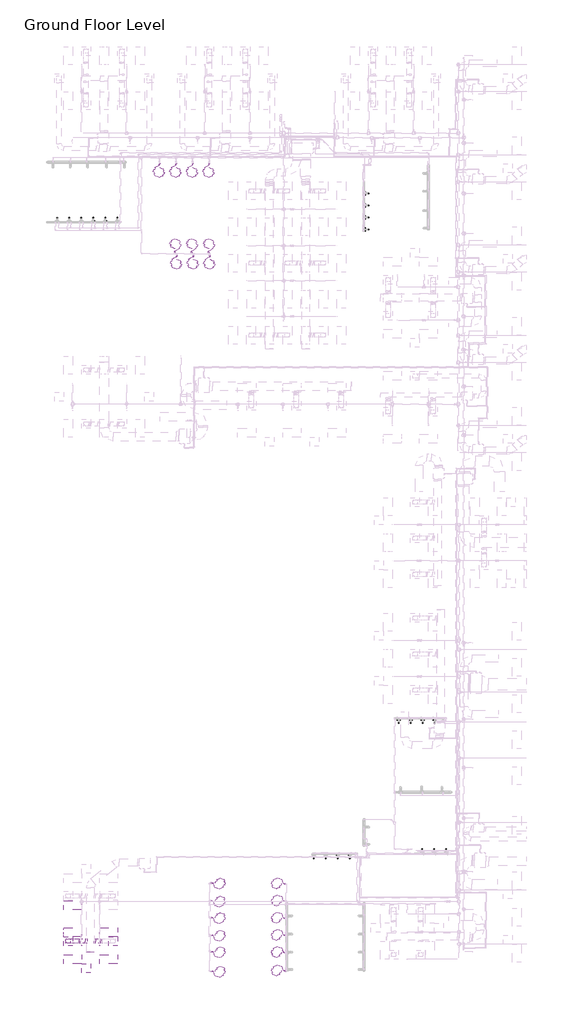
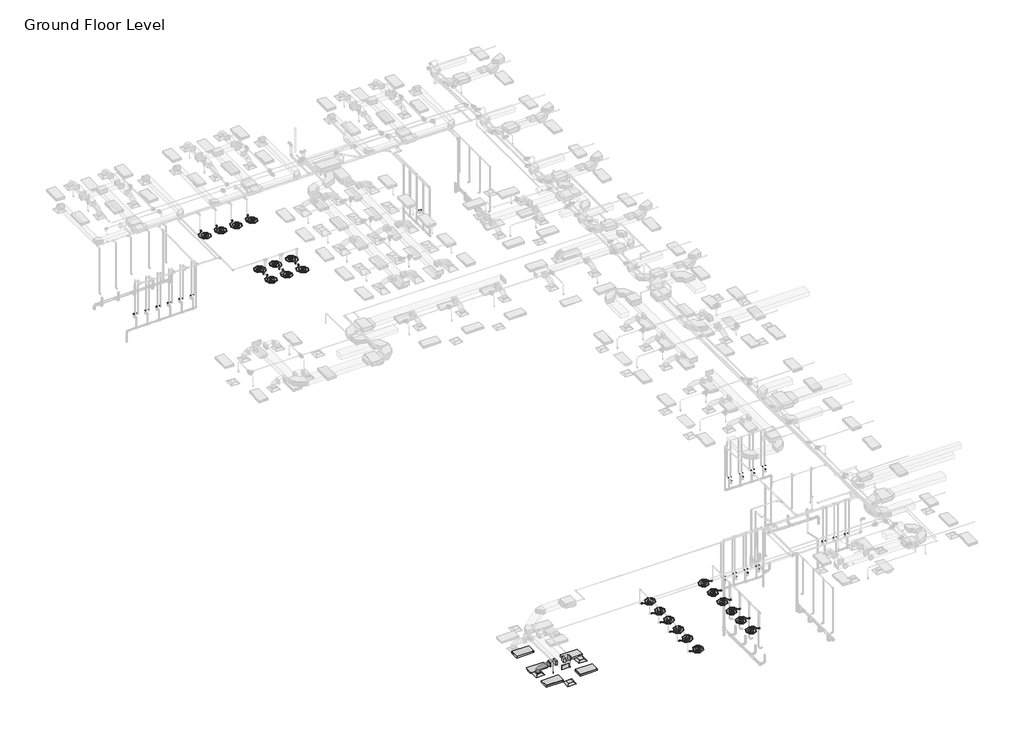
# One storey, part 1 of 74: 43 flow terminals, 6 duct fittings, 5 light fixtures, 3 air terminals, 3 duct segments, 2 fire suppression terminals, 2 pipe segments.
"""IFC4 building model written with IfcOpenShell, lengths in millimetres."""

from ifc_helpers import new_model, si_unit, point, frame, frame_2d, origin, place, context, project, spatial, polyline, circle_curve, ellipse_curve, trimmed, segment, composite_curve, outline, extrude, transform, mapped, element, save
from ifc_brep_helpers import plane_surface, cylinder_surface, advanced_brep
from components import m_return_diffuser_600_x_600_face_300_x_300_connection_ff221211, m_rectangular_endcap_standard_72d4d00d, m_rectangular_takeoff_standard_cb0ccb98, m_rectangular_takeoff_standard_2be5eba1, m_rectangular_to_round_transition_angle_45_degree_641efff0, m_sprinkler_dry_pendent_hosted_15_mm_dry_pendent_9bda8e11, lavatory_unit_m_type_1_c53317d3, shower_m_shower_m_c8aa42c7, m_emergency_recessed_lighting_fixture_600x1200_277_5b10b25d, m_troffer_light_parabolic_rectangular1_0600x1200mm_4_lamp_86473d4a

model = new_model("IFC4")

# Units and contexts
model_context = context("Model", 3, world=origin())
ifc_project = project(units=[si_unit("LENGTHUNIT", "METRE", prefix="MILLI")], contexts=[model_context])

# Site, building, storey
site = spatial("IfcSite", under=ifc_project)
building = spatial("IfcBuilding", under=site)
storey = spatial("IfcBuildingStorey", under=building, Name="Ground Floor Level", Elevation=900.0)

# Air terminals
placement = place(None, origin())
m_return_diffuser_600_x_600_face_300_x_300_connection_shape = m_return_diffuser_600_x_600_face_300_x_300_connection_ff221211(model_context)
element("IfcAirTerminal", 1, ObjectType="M_Return Diffuser : 600 x 600 Face 300 x 300 Connection", at=placement, inside=storey, context=model_context, shape_type="MappedRepresentation", body=[
    mapped(m_return_diffuser_600_x_600_face_300_x_300_connection_shape, transform((-19137.2327605, -40464.7846466, 3650.0), x_axis=(1.0, 0.0, 0.0), y_axis=(0.0, 1.0, 0.0), z_axis=(0.0, 0.0, 1.0))),
])
element("IfcAirTerminal", 2, ObjectType="M_Supply Diffuser : 600 x 600 Face 300 x 300 Connection", at=placement, inside=storey, context=model_context, shape_type="MappedRepresentation", body=[
    mapped(m_return_diffuser_600_x_600_face_300_x_300_connection_shape, transform((-20337.2327605, -38664.7846466, 3650.0), x_axis=(1.0, 0.0, 0.0), y_axis=(0.0, 1.0, 0.0), z_axis=(0.0, 0.0, 1.0))),
])
element("IfcAirTerminal", 3, ObjectType="M_Supply Diffuser : 600 x 600 Face 300 x 300 Connection", at=placement, inside=storey, context=model_context, shape_type="MappedRepresentation", body=[
    mapped(m_return_diffuser_600_x_600_face_300_x_300_connection_shape, transform((-17337.2327605, -38674.7846466, 3650.0), x_axis=(1.0, 0.0, 0.0), y_axis=(0.0, 1.0, 0.0), z_axis=(0.0, 0.0, 1.0))),
])

# Duct fittings
m_rectangular_endcap_standard_shape = m_rectangular_endcap_standard_72d4d00d(model_context)
element("IfcDuctFitting", 4, ObjectType="M_Rectangular Endcap : Standard", at=placement, inside=storey, context=model_context, shape_type="MappedRepresentation", body=[
    mapped(m_rectangular_endcap_standard_shape, transform((-18834.0450532, -39368.1580197, 4100.0), x_axis=(0.0, -1.0, 0.0), y_axis=(1.0, 0.0, 0.0), z_axis=(0.0, 0.0, 1.0))),
])
m_rectangular_takeoff_standard_shape = m_rectangular_takeoff_standard_cb0ccb98(model_context)
element("IfcDuctFitting", 5, ObjectType="M_Rectangular Takeoff : Standard", at=placement, inside=storey, context=model_context, shape_type="MappedRepresentation", body=[
    mapped(m_rectangular_takeoff_standard_shape, transform((-18584.0450532, -38664.7846466, 4100.0), x_axis=(1.0, 0.0, 0.0), y_axis=(0.0, -1.0, 0.0), z_axis=(0.0, 0.0, -1.0))),
])
m_rectangular_takeoff_standard_2_shape = m_rectangular_takeoff_standard_2be5eba1(model_context)
element("IfcDuctFitting", 6, ObjectType="M_Rectangular Takeoff : Standard", at=placement, inside=storey, context=model_context, shape_type="MappedRepresentation", body=[
    mapped(m_rectangular_takeoff_standard_2_shape, transform((-19084.0450532, -38664.7846466, 4100.0), x_axis=(-1.0, 0.0, 0.0), y_axis=(0.0, 1.0, 0.0), z_axis=(0.0, 0.0, -1.0))),
])
m_rectangular_to_round_transition_angle_45_degree_shape = m_rectangular_to_round_transition_angle_45_degree_641efff0(model_context)
element("IfcDuctFitting", 7, ObjectType="M_Rectangular to Round Transition - Angle : 45 Degree", at=placement, inside=storey, context=model_context, shape_type="MappedRepresentation", body=[
    mapped(m_rectangular_to_round_transition_angle_45_degree_shape, transform((-18164.5686918, -38664.7846466, 4100.0), x_axis=(1.0, 0.0, 0.0), y_axis=(0.0, 1.0, 0.0), z_axis=(0.0, 0.0, 1.0))),
])
element("IfcDuctFitting", 8, ObjectType="M_Rectangular to Round Transition - Angle : 45 Degree", at=placement, inside=storey, context=model_context, shape_type="MappedRepresentation", body=[
    mapped(m_rectangular_to_round_transition_angle_45_degree_shape, transform((-20337.2327605, -38664.7846466, 3751.6), x_axis=(0.0, 0.0, 1.0), y_axis=(-1.0, 0.0, 0.0), z_axis=(0.0, -1.0, 0.0))),
])
element("IfcDuctFitting", 9, ObjectType="M_Rectangular to Round Transition - Angle : 45 Degree", at=placement, inside=storey, context=model_context, shape_type="MappedRepresentation", body=[
    mapped(m_rectangular_to_round_transition_angle_45_degree_shape, transform((-19509.8968292, -38664.7846466, 4100.0), x_axis=(-1.0, 0.0, 0.0), y_axis=(0.0, -1.0, 0.0), z_axis=(0.0, 0.0, 1.0))),
])

# Duct segments
element("IfcDuctSegment", 10, ObjectType="Flex - Round", at=placement, inside=storey, context=model_context, shape_type="AdvancedBrep", body=[
    advanced_brep(
    [(-20187.2327605, -38664.7846466, 3826.6), (-20337.2327605, -38814.7846466, 3826.6), (-20487.2327605, -38664.7846466, 3826.6), (-20337.2327605, -38514.7846466, 3826.6), (-20187.2327605, -38664.7846466, 3832.2944892), (-20337.2327605, -38814.7846466, 3857.9377114), (-20487.2327605, -38664.7846466, 3883.5809337), (-20337.2327605, -38514.7846466, 3857.9377114), (-20186.478849, -38664.7846466, 3834.435049), (-20320.216828, -38814.7846466, 3906.2505728), (-20453.9548069, -38664.7846466, 3978.0660967), (-20320.216828, -38514.7846466, 3906.2505728), (-20168.8270484, -38664.7846466, 3857.8020236), (-20273.0329476, -38814.7846466, 3968.7113131), (-20377.2388469, -38664.7846466, 4079.6206026), (-20273.0329476, -38514.7846466, 3968.7113131), (-20132.5429398, -38664.7846466, 3881.8163788), (-20201.4769955, -38814.7846466, 4016.0700639), (-20270.4110511, -38664.7846466, 4150.3237489), (-20201.4769955, -38514.7846466, 4016.0700639), (-20067.7840843, -38664.7846466, 3906.4925606), (-20111.3448475, -38814.7846466, 4050.4146682), (-20154.9056106, -38664.7846466, 4194.3367758), (-20111.3448475, -38514.7846466, 4050.4146682), (-19981.8714556, -38664.7846466, 3926.0424542), (-20008.4323796, -38814.7846466, 4073.8329691), (-20034.9933036, -38664.7846466, 4221.6234841), (-20008.4323796, -38514.7846466, 4073.8329691), (-19883.3845655, -38664.7846466, 3939.1085462), (-19898.5354679, -38814.7846466, 4088.4128097), (-19913.6863702, -38664.7846466, 4237.7170733), (-19898.5354679, -38514.7846466, 4088.4128097), (-19779.9446601, -38664.7846466, 3946.398915), (-19787.4499883, -38814.7846466, 4096.242033), (-19794.9553164, -38664.7846466, 4246.085151), (-19787.4499883, -38514.7846466, 4096.242033), (-19678.2803236, -38664.7846466, 3949.4222102), (-19680.9718167, -38814.7846466, 4099.4084821), (-19683.6633098, -38664.7846466, 4249.394754), (-19680.9718167, -38514.7846466, 4099.4084821), (-19583.9733214, -38664.7846466, 3950.0028429), (-19584.8968292, -38814.7846466, 4100.0), (-19585.8203371, -38664.7846466, 4249.9971571), (-19584.8968292, -38514.7846466, 4100.0)],
    [
        (0, 1, circle_curve(frame((-20337.2327605, -38664.7846466, 3826.6), z_axis=(0.0, 0.0, -1.0), x_axis=(1.0, 0.0, 0.0)), 150.0)),
        (1, 2, circle_curve(frame((-20337.2327605, -38664.7846466, 3826.6), z_axis=(0.0, 0.0, -1.0), x_axis=(1.0, 0.0, 0.0)), 150.0)),
        (2, 3, circle_curve(frame((-20337.2327605, -38664.7846466, 3826.6), z_axis=(0.0, 0.0, -1.0), x_axis=(1.0, 0.0, 0.0)), 150.0)),
        (3, 0, circle_curve(frame((-20337.2327605, -38664.7846466, 3826.6), z_axis=(0.0, 0.0, -1.0), x_axis=(1.0, 0.0, 0.0)), 150.0)),
        (0, 4),
        (4, 5, ellipse_curve(frame((-20337.2327605, -38664.7846466, 3857.9377114), z_axis=(-0.16851014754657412, 0.0, -0.9856999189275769), x_axis=(0.9856999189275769, 0.0, -0.16851014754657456)), 152.176131, 150.0)),
        (5, 1),
        (5, 6, ellipse_curve(frame((-20337.2327605, -38664.7846466, 3857.9377114), z_axis=(-0.16851014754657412, 0.0, -0.9856999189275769), x_axis=(0.9856999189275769, 0.0, -0.16851014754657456)), 152.176131, 150.0)),
        (6, 2),
        (6, 7, ellipse_curve(frame((-20337.2327605, -38664.7846466, 3857.9377114), z_axis=(-0.16851014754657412, 0.0, -0.9856999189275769), x_axis=(0.9856999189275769, 0.0, -0.16851014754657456)), 152.176131, 150.0)),
        (7, 3),
        (7, 4, ellipse_curve(frame((-20337.2327605, -38664.7846466, 3857.9377114), z_axis=(-0.16851014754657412, 0.0, -0.9856999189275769), x_axis=(0.9856999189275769, 0.0, -0.16851014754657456)), 152.176131, 150.0)),
        (4, 8),
        (8, 9, ellipse_curve(frame((-20320.216828, -38664.7846466, 3906.2505728), z_axis=(-0.47309225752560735, 0.0, -0.881012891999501), x_axis=(0.8810128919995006, 0.0, -0.4730922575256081)), 151.8002519, 150.0)),
        (9, 5),
        (9, 10, ellipse_curve(frame((-20320.216828, -38664.7846466, 3906.2505728), z_axis=(-0.47309225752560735, 0.0, -0.881012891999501), x_axis=(0.8810128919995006, 0.0, -0.4730922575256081)), 151.8002519, 150.0)),
        (10, 6),
        (10, 11, ellipse_curve(frame((-20320.216828, -38664.7846466, 3906.2505728), z_axis=(-0.47309225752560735, 0.0, -0.881012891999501), x_axis=(0.8810128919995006, 0.0, -0.4730922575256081)), 151.8002519, 150.0)),
        (11, 7),
        (11, 8, ellipse_curve(frame((-20320.216828, -38664.7846466, 3906.2505728), z_axis=(-0.47309225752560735, 0.0, -0.881012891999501), x_axis=(0.8810128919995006, 0.0, -0.4730922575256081)), 151.8002519, 150.0)),
        (8, 12),
        (12, 13, ellipse_curve(frame((-20273.0329476, -38664.7846466, 3968.7113131), z_axis=(-0.728787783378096, 0.0, -0.6847396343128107), x_axis=(0.6847396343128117, 0.0, -0.7287877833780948)), 152.1832446, 150.0)),
        (13, 9),
        (13, 14, ellipse_curve(frame((-20273.0329476, -38664.7846466, 3968.7113131), z_axis=(-0.728787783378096, 0.0, -0.6847396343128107), x_axis=(0.6847396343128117, 0.0, -0.7287877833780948)), 152.1832446, 150.0)),
        (14, 10),
        (14, 15, ellipse_curve(frame((-20273.0329476, -38664.7846466, 3968.7113131), z_axis=(-0.728787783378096, 0.0, -0.6847396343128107), x_axis=(0.6847396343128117, 0.0, -0.7287877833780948)), 152.1832446, 150.0)),
        (15, 11),
        (15, 12, ellipse_curve(frame((-20273.0329476, -38664.7846466, 3968.7113131), z_axis=(-0.728787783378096, 0.0, -0.6847396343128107), x_axis=(0.6847396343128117, 0.0, -0.7287877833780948)), 152.1832446, 150.0)),
        (12, 16),
        (16, 17, ellipse_curve(frame((-20201.4769955, -38664.7846466, 4016.0700639), z_axis=(-0.8895859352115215, 0.0, -0.4567678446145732), x_axis=(0.45676784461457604, 0.0, -0.88958593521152)), 150.91705, 150.0)),
        (17, 13),
        (17, 18, ellipse_curve(frame((-20201.4769955, -38664.7846466, 4016.0700639), z_axis=(-0.8895859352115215, 0.0, -0.4567678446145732), x_axis=(0.45676784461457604, 0.0, -0.88958593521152)), 150.91705, 150.0)),
        (18, 14),
        (18, 19, ellipse_curve(frame((-20201.4769955, -38664.7846466, 4016.0700639), z_axis=(-0.8895859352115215, 0.0, -0.4567678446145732), x_axis=(0.45676784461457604, 0.0, -0.88958593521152)), 150.91705, 150.0)),
        (19, 15),
        (19, 16, ellipse_curve(frame((-20201.4769955, -38664.7846466, 4016.0700639), z_axis=(-0.8895859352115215, 0.0, -0.4567678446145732), x_axis=(0.45676784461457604, 0.0, -0.88958593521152)), 150.91705, 150.0)),
        (16, 20),
        (20, 21, ellipse_curve(frame((-20111.3448475, -38664.7846466, 4050.4146682), z_axis=(-0.9571203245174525, 0.0, -0.2896906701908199), x_axis=(0.28969067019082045, 0.0, -0.9571203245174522)), 150.369921, 150.0)),
        (21, 17),
        (21, 22, ellipse_curve(frame((-20111.3448475, -38664.7846466, 4050.4146682), z_axis=(-0.9571203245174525, 0.0, -0.2896906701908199), x_axis=(0.28969067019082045, 0.0, -0.9571203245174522)), 150.369921, 150.0)),
        (22, 18),
        (22, 23, ellipse_curve(frame((-20111.3448475, -38664.7846466, 4050.4146682), z_axis=(-0.9571203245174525, 0.0, -0.2896906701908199), x_axis=(0.28969067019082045, 0.0, -0.9571203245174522)), 150.369921, 150.0)),
        (23, 19),
        (23, 20, ellipse_curve(frame((-20111.3448475, -38664.7846466, 4050.4146682), z_axis=(-0.9571203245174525, 0.0, -0.2896906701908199), x_axis=(0.28969067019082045, 0.0, -0.9571203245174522)), 150.369921, 150.0)),
        (20, 24),
        (24, 25, ellipse_curve(frame((-20008.4323796, -38664.7846466, 4073.8329691), z_axis=(-0.9842313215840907, 0.0, -0.17688613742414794), x_axis=(0.17688613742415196, 0.0, -0.9842313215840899)), 150.1583131, 150.0)),
        (25, 21),
        (25, 26, ellipse_curve(frame((-20008.4323796, -38664.7846466, 4073.8329691), z_axis=(-0.9842313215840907, 0.0, -0.17688613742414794), x_axis=(0.17688613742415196, 0.0, -0.9842313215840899)), 150.1583131, 150.0)),
        (26, 22),
        (26, 27, ellipse_curve(frame((-20008.4323796, -38664.7846466, 4073.8329691), z_axis=(-0.9842313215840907, 0.0, -0.17688613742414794), x_axis=(0.17688613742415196, 0.0, -0.9842313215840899)), 150.1583131, 150.0)),
        (27, 23),
        (27, 24, ellipse_curve(frame((-20008.4323796, -38664.7846466, 4073.8329691), z_axis=(-0.9842313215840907, 0.0, -0.17688613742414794), x_axis=(0.17688613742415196, 0.0, -0.9842313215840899)), 150.1583131, 150.0)),
        (24, 28),
        (28, 29, ellipse_curve(frame((-19898.5354679, -38664.7846466, 4088.4128097), z_axis=(-0.9948906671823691, 0.0, -0.1009582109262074), x_axis=(0.10095821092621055, 0.0, -0.9948906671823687)), 150.0710264, 150.0)),
        (29, 25),
        (29, 30, ellipse_curve(frame((-19898.5354679, -38664.7846466, 4088.4128097), z_axis=(-0.9948906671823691, 0.0, -0.1009582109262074), x_axis=(0.10095821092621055, 0.0, -0.9948906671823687)), 150.0710264, 150.0)),
        (30, 26),
        (30, 31, ellipse_curve(frame((-19898.5354679, -38664.7846466, 4088.4128097), z_axis=(-0.9948906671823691, 0.0, -0.1009582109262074), x_axis=(0.10095821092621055, 0.0, -0.9948906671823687)), 150.0710264, 150.0)),
        (31, 27),
        (31, 28, ellipse_curve(frame((-19898.5354679, -38664.7846466, 4088.4128097), z_axis=(-0.9948906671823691, 0.0, -0.1009582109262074), x_axis=(0.10095821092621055, 0.0, -0.9948906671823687)), 150.0710264, 150.0)),
        (28, 32),
        (32, 33, ellipse_curve(frame((-19787.4499883, -38664.7846466, 4096.242033), z_axis=(-0.9987479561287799, 0.0, -0.05002519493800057), x_axis=(0.05002519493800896, 0.0, -0.9987479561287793)), 150.0309634, 150.0)),
        (33, 29),
        (33, 34, ellipse_curve(frame((-19787.4499883, -38664.7846466, 4096.242033), z_axis=(-0.9987479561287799, 0.0, -0.05002519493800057), x_axis=(0.05002519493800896, 0.0, -0.9987479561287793)), 150.0309634, 150.0)),
        (34, 30),
        (34, 35, ellipse_curve(frame((-19787.4499883, -38664.7846466, 4096.242033), z_axis=(-0.9987479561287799, 0.0, -0.05002519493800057), x_axis=(0.05002519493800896, 0.0, -0.9987479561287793)), 150.0309634, 150.0)),
        (35, 31),
        (35, 32, ellipse_curve(frame((-19787.4499883, -38664.7846466, 4096.242033), z_axis=(-0.9987479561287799, 0.0, -0.05002519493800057), x_axis=(0.05002519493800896, 0.0, -0.9987479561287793)), 150.0309634, 150.0)),
        (32, 36),
        (36, 37, ellipse_curve(frame((-19680.9718167, -38664.7846466, 4099.4084821), z_axis=(-0.9998390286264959, 0.0, -0.017942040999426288), x_axis=(0.01794204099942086, 0.0, -0.999839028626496)), 150.0104193, 150.0)),
        (37, 33),
        (37, 38, ellipse_curve(frame((-19680.9718167, -38664.7846466, 4099.4084821), z_axis=(-0.9998390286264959, 0.0, -0.017942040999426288), x_axis=(0.01794204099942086, 0.0, -0.999839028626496)), 150.0104193, 150.0)),
        (38, 34),
        (38, 39, ellipse_curve(frame((-19680.9718167, -38664.7846466, 4099.4084821), z_axis=(-0.9998390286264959, 0.0, -0.017942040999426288), x_axis=(0.01794204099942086, 0.0, -0.999839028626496)), 150.0104193, 150.0)),
        (39, 35),
        (39, 36, ellipse_curve(frame((-19680.9718167, -38664.7846466, 4099.4084821), z_axis=(-0.9998390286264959, 0.0, -0.017942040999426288), x_axis=(0.01794204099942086, 0.0, -0.999839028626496)), 150.0104193, 150.0)),
        (36, 40),
        (40, 41, circle_curve(frame((-19584.8968292, -38664.7846466, 4100.0), z_axis=(-0.9999810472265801, 0.0, -0.006156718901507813), x_axis=(0.006156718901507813, 0.0, -0.9999810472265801)), 150.0)),
        (41, 37),
        (41, 42, circle_curve(frame((-19584.8968292, -38664.7846466, 4100.0), z_axis=(-0.9999810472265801, 0.0, -0.006156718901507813), x_axis=(0.006156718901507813, 0.0, -0.9999810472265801)), 150.0)),
        (42, 38),
        (42, 43, circle_curve(frame((-19584.8968292, -38664.7846466, 4100.0), z_axis=(-0.9999810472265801, 0.0, -0.006156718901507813), x_axis=(0.006156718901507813, 0.0, -0.9999810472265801)), 150.0)),
        (43, 39),
        (43, 40, circle_curve(frame((-19584.8968292, -38664.7846466, 4100.0), z_axis=(-0.9999810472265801, 0.0, -0.006156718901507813), x_axis=(0.006156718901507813, 0.0, -0.9999810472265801)), 150.0)),
    ],
    [
        plane_surface(frame((-20337.2327605, -38814.7846466, 3826.6), z_axis=(0.0, 0.0, -1.0), x_axis=(1.0, 0.0, 0.0))),
        cylinder_surface(frame((-20337.2327605, -38664.7846466, 3826.6), z_axis=(0.0, 0.0, -1.0), x_axis=(1.0, 0.0, 0.0)), 150.0),
        cylinder_surface(frame((-20337.2327605, -38664.7846466, 3857.9377114), z_axis=(-0.3322008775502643, 0.0, -0.9432086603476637), x_axis=(0.9432086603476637, 0.0, -0.3322008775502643)), 150.0),
        cylinder_surface(frame((-20320.216828, -38664.7846466, 3906.2505728), z_axis=(-0.602762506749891, 0.0, -0.7979206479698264), x_axis=(0.7979206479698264, 0.0, -0.602762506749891)), 150.0),
        cylinder_surface(frame((-20273.0329476, -38664.7846466, 3968.7113131), z_axis=(-0.8339024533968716, 0.0, -0.5519118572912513), x_axis=(0.5519118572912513, 0.0, -0.8339024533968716)), 150.0),
        cylinder_surface(frame((-20201.4769955, -38664.7846466, 4016.0700639), z_axis=(-0.9344582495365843, 0.0, -0.35607271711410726), x_axis=(0.35607271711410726, 0.0, -0.9344582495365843)), 150.0),
        cylinder_surface(frame((-20111.3448475, -38664.7846466, 4050.4146682), z_axis=(-0.9750732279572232, 0.0, -0.2218833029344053), x_axis=(0.2218833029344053, 0.0, -0.9750732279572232)), 150.0),
        cylinder_surface(frame((-20008.4323796, -38664.7846466, 4073.8329691), z_axis=(-0.9913140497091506, 0.0, -0.13151598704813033), x_axis=(0.13151598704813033, 0.0, -0.9913140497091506)), 150.0),
        cylinder_surface(frame((-19898.5354679, -38664.7846466, 4088.4128097), z_axis=(-0.9975255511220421, 0.0, -0.07030487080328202), x_axis=(0.07030487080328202, 0.0, -0.9975255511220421)), 150.0),
        cylinder_surface(frame((-19787.4499883, -38664.7846466, 4096.242033), z_axis=(-0.9995581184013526, 0.0, -0.02972487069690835), x_axis=(0.02972487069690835, 0.0, -0.9995581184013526)), 150.0),
        cylinder_surface(frame((-19680.9718167, -38664.7846466, 4099.4084821), z_axis=(-0.9999810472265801, 0.0, -0.006156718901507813), x_axis=(0.006156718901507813, 0.0, -0.9999810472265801)), 150.0),
        plane_surface(frame((-19584.8968292, -38814.7846466, 4100.0), z_axis=(0.9999810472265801, 0.0, 0.00615671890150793), x_axis=(0.00615671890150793, 0.0, -0.9999810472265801))),
    ],
    [
        (0, [[1, 2, 3, 4]]),
        (1, [[-1, 5, 6, 7]]),
        (1, [[-2, -7, 8, 9]]),
        (1, [[-3, -9, 10, 11]]),
        (1, [[-4, -11, 12, -5]]),
        (2, [[-6, 13, 14, 15]]),
        (2, [[-8, -15, 16, 17]]),
        (2, [[-10, -17, 18, 19]]),
        (2, [[-12, -19, 20, -13]]),
        (3, [[-14, 21, 22, 23]]),
        (3, [[-16, -23, 24, 25]]),
        (3, [[-18, -25, 26, 27]]),
        (3, [[-20, -27, 28, -21]]),
        (4, [[-22, 29, 30, 31]]),
        (4, [[-24, -31, 32, 33]]),
        (4, [[-26, -33, 34, 35]]),
        (4, [[-28, -35, 36, -29]]),
        (5, [[-30, 37, 38, 39]]),
        (5, [[-32, -39, 40, 41]]),
        (5, [[-34, -41, 42, 43]]),
        (5, [[-36, -43, 44, -37]]),
        (6, [[-38, 45, 46, 47]]),
        (6, [[-40, -47, 48, 49]]),
        (6, [[-42, -49, 50, 51]]),
        (6, [[-44, -51, 52, -45]]),
        (7, [[-46, 53, 54, 55]]),
        (7, [[-48, -55, 56, 57]]),
        (7, [[-50, -57, 58, 59]]),
        (7, [[-52, -59, 60, -53]]),
        (8, [[-54, 61, 62, 63]]),
        (8, [[-56, -63, 64, 65]]),
        (8, [[-58, -65, 66, 67]]),
        (8, [[-60, -67, 68, -61]]),
        (9, [[-62, 69, 70, 71]]),
        (9, [[-64, -71, 72, 73]]),
        (9, [[-66, -73, 74, 75]]),
        (9, [[-68, -75, 76, -69]]),
        (10, [[-70, 77, 78, 79]]),
        (10, [[-72, -79, 80, 81]]),
        (10, [[-74, -81, 82, 83]]),
        (10, [[-76, -83, 84, -77]]),
        (11, [[-84, -82, -80, -78]]),
    ],
),
])
element("IfcDuctSegment", 11, ObjectType="Radius Elbows / Taps", at=placement, inside=storey, context=model_context, shape_type="SweptSolid", body=[
    extrude(outline(polyline([(-19185.6450532, -38514.7846466), (-19185.6450532, -38814.7846466), (-19509.8968292, -38814.7846466), (-19509.8968292, -38514.7846466), (-19185.6450532, -38514.7846466)])), frame((0.0, 0.0, 3950.0), z_axis=(0.0, 0.0, 1.0), x_axis=(1.0, 0.0, 0.0)), (0.0, 0.0, 1.0), 300.0),
])
element("IfcDuctSegment", 12, ObjectType="Radius Elbows / Taps", at=placement, inside=storey, context=model_context, shape_type="SweptSolid", body=[
    extrude(outline(polyline([(-18482.4450532, -38814.7846466), (-18482.4450532, -38514.7846466), (-18164.5686918, -38514.7846466), (-18164.5686918, -38814.7846466), (-18482.4450532, -38814.7846466)])), frame((0.0, 0.0, 3950.0), z_axis=(0.0, 0.0, 1.0), x_axis=(1.0, 0.0, 0.0)), (0.0, 0.0, 1.0), 300.0),
])

# Fire suppression terminals
m_sprinkler_dry_pendent_hosted_15_mm_dry_pendent_shape = m_sprinkler_dry_pendent_hosted_15_mm_dry_pendent_9bda8e11(model_context)
element("IfcFireSuppressionTerminal", 13, ObjectType="M_Sprinkler - Dry - Pendent - Hosted : 15 mm Dry Pendent", at=placement, inside=storey, context=model_context, shape_type="MappedRepresentation", body=[
    mapped(m_sprinkler_dry_pendent_hosted_15_mm_dry_pendent_shape, transform((-18237.2327605, -38964.7846466, 3650.0), x_axis=(1.0, 0.0, 0.0), y_axis=(0.0, -1.0, 0.0), z_axis=(0.0, 0.0, -1.0))),
])
element("IfcFireSuppressionTerminal", 14, ObjectType="M_Sprinkler - Dry - Pendent - Hosted : 15 mm Dry Pendent", at=placement, inside=storey, context=model_context, shape_type="MappedRepresentation", body=[
    mapped(m_sprinkler_dry_pendent_hosted_15_mm_dry_pendent_shape, transform((-19437.2327605, -38964.7846466, 3650.0), x_axis=(1.0, 0.0, 0.0), y_axis=(0.0, -1.0, 0.0), z_axis=(0.0, 0.0, -1.0))),
])

# Flow terminals
lavatory_unit_m_type_1_shape = lavatory_unit_m_type_1_c53317d3(model_context)
element("IfcFlowTerminal", 15, ObjectType="Lavatory Unit-M : Type 1", at=placement, inside=storey, context=model_context, shape_type="MappedRepresentation", body=[
    mapped(lavatory_unit_m_type_1_shape, transform((-21186.2502, 9255.2153534, 920.0), x_axis=(1.0, 0.0, 0.0), y_axis=(0.0, 1.0, 0.0), z_axis=(0.0, 0.0, 1.0))),
])
element("IfcFlowTerminal", 16, ObjectType="Lavatory Unit-M : Type 1", at=placement, inside=storey, context=model_context, shape_type="MappedRepresentation", body=[
    mapped(lavatory_unit_m_type_1_shape, transform((-20386.2502, 9255.2153534, 920.0), x_axis=(1.0, 0.0, 0.0), y_axis=(0.0, 1.0, 0.0), z_axis=(0.0, 0.0, 1.0))),
])
element("IfcFlowTerminal", 17, ObjectType="Lavatory Unit-M : Type 1", at=placement, inside=storey, context=model_context, shape_type="MappedRepresentation", body=[
    mapped(lavatory_unit_m_type_1_shape, transform((-537.2327605, 8796.1979139, 920.0), x_axis=(0.0, -1.0, 0.0), y_axis=(1.0, 0.0, 0.0), z_axis=(0.0, 0.0, 1.0))),
])
element("IfcFlowTerminal", 18, ObjectType="Lavatory Unit-M : Type 1", at=placement, inside=storey, context=model_context, shape_type="MappedRepresentation", body=[
    mapped(lavatory_unit_m_type_1_shape, transform((-19586.2502, 9255.2153534, 920.0), x_axis=(1.0, 0.0, 0.0), y_axis=(0.0, 1.0, 0.0), z_axis=(0.0, 0.0, 1.0))),
])
element("IfcFlowTerminal", 19, ObjectType="Lavatory Unit-M : Type 1", at=placement, inside=storey, context=model_context, shape_type="MappedRepresentation", body=[
    mapped(lavatory_unit_m_type_1_shape, transform((-18786.2502, 9255.2153534, 920.0), x_axis=(1.0, 0.0, 0.0), y_axis=(0.0, 1.0, 0.0), z_axis=(0.0, 0.0, 1.0))),
])
element("IfcFlowTerminal", 20, ObjectType="Lavatory Unit-M : Type 1", at=placement, inside=storey, context=model_context, shape_type="MappedRepresentation", body=[
    mapped(lavatory_unit_m_type_1_shape, transform((-17986.2502, 9255.2153534, 920.0), x_axis=(1.0, 0.0, 0.0), y_axis=(0.0, 1.0, 0.0), z_axis=(0.0, 0.0, 1.0))),
])
element("IfcFlowTerminal", 21, ObjectType="Lavatory Unit-M : Type 1", at=placement, inside=storey, context=model_context, shape_type="MappedRepresentation", body=[
    mapped(lavatory_unit_m_type_1_shape, transform((-17186.2502, 9255.2153534, 920.0), x_axis=(1.0, 0.0, 0.0), y_axis=(0.0, 1.0, 0.0), z_axis=(0.0, 0.0, 1.0))),
])
element("IfcFlowTerminal", 22, ObjectType="Lavatory Unit-M : Type 1", at=placement, inside=storey, context=model_context, shape_type="MappedRepresentation", body=[
    mapped(lavatory_unit_m_type_1_shape, transform((-537.2327605, 9596.1979139, 920.0), x_axis=(0.0, -1.0, 0.0), y_axis=(1.0, 0.0, 0.0), z_axis=(0.0, 0.0, 1.0))),
])
element("IfcFlowTerminal", 23, ObjectType="Lavatory Unit-M : Type 1", at=placement, inside=storey, context=model_context, shape_type="MappedRepresentation", body=[
    mapped(lavatory_unit_m_type_1_shape, transform((-537.2327605, 10396.1979139, 920.0), x_axis=(0.0, -1.0, 0.0), y_axis=(1.0, 0.0, 0.0), z_axis=(0.0, 0.0, 1.0))),
])
element("IfcFlowTerminal", 24, ObjectType="Lavatory Unit-M : Type 1", at=placement, inside=storey, context=model_context, shape_type="MappedRepresentation", body=[
    mapped(lavatory_unit_m_type_1_shape, transform((-537.2327605, 11196.1979139, 920.0), x_axis=(0.0, -1.0, 0.0), y_axis=(1.0, 0.0, 0.0), z_axis=(0.0, 0.0, 1.0))),
])
element("IfcFlowTerminal", 25, ObjectType="Lavatory Unit-M : Type 1", at=placement, inside=storey, context=model_context, shape_type="MappedRepresentation", body=[
    mapped(lavatory_unit_m_type_1_shape, transform((1803.7498, -23964.7846466, 920.0), x_axis=(-1.0, 0.0, 0.0), y_axis=(0.0, -1.0, 0.0), z_axis=(0.0, 0.0, 1.0))),
])
element("IfcFlowTerminal", 26, ObjectType="Lavatory Unit-M : Type 1", at=placement, inside=storey, context=model_context, shape_type="MappedRepresentation", body=[
    mapped(lavatory_unit_m_type_1_shape, transform((2603.7498, -23964.7846466, 920.0), x_axis=(-1.0, 0.0, 0.0), y_axis=(0.0, -1.0, 0.0), z_axis=(0.0, 0.0, 1.0))),
])
element("IfcFlowTerminal", 27, ObjectType="Lavatory Unit-M : Type 1", at=placement, inside=storey, context=model_context, shape_type="MappedRepresentation", body=[
    mapped(lavatory_unit_m_type_1_shape, transform((3403.7498, -23964.7846466, 920.0), x_axis=(-1.0, 0.0, 0.0), y_axis=(0.0, -1.0, 0.0), z_axis=(0.0, 0.0, 1.0))),
])
element("IfcFlowTerminal", 28, ObjectType="Lavatory Unit-M : Type 1", at=placement, inside=storey, context=model_context, shape_type="MappedRepresentation", body=[
    mapped(lavatory_unit_m_type_1_shape, transform((4203.7498, -23964.7846466, 920.0), x_axis=(-1.0, 0.0, 0.0), y_axis=(0.0, -1.0, 0.0), z_axis=(0.0, 0.0, 1.0))),
])
element("IfcFlowTerminal", 29, ObjectType="Lavatory Unit-M : Type 1", at=placement, inside=storey, context=model_context, shape_type="MappedRepresentation", body=[
    mapped(lavatory_unit_m_type_1_shape, transform((4701.7846789, -32744.7846466, 920.0), x_axis=(1.0, 0.0, 0.0), y_axis=(0.0, 1.0, 0.0), z_axis=(0.0, 0.0, 1.0))),
])
element("IfcFlowTerminal", 30, ObjectType="Lavatory Unit-M : Type 1", at=placement, inside=storey, context=model_context, shape_type="MappedRepresentation", body=[
    mapped(lavatory_unit_m_type_1_shape, transform((3901.7846789, -32744.7846466, 920.0), x_axis=(1.0, 0.0, 0.0), y_axis=(0.0, 1.0, 0.0), z_axis=(0.0, 0.0, 1.0))),
])
element("IfcFlowTerminal", 31, ObjectType="Lavatory Unit-M : Type 1", at=placement, inside=storey, context=model_context, shape_type="MappedRepresentation", body=[
    mapped(lavatory_unit_m_type_1_shape, transform((3101.7846789, -32744.7846466, 920.0), x_axis=(1.0, 0.0, 0.0), y_axis=(0.0, 1.0, 0.0), z_axis=(0.0, 0.0, 1.0))),
])
element("IfcFlowTerminal", 32, ObjectType="Lavatory Unit-M : Type 1", at=placement, inside=storey, context=model_context, shape_type="MappedRepresentation", body=[
    mapped(lavatory_unit_m_type_1_shape, transform((-1448.215321, -32964.7846466, 920.0), x_axis=(-1.0, 0.0, 0.0), y_axis=(0.0, -1.0, 0.0), z_axis=(0.0, 0.0, 1.0))),
])
element("IfcFlowTerminal", 33, ObjectType="Lavatory Unit-M : Type 1", at=placement, inside=storey, context=model_context, shape_type="MappedRepresentation", body=[
    mapped(lavatory_unit_m_type_1_shape, transform((-2248.215321, -32964.7846466, 920.0), x_axis=(-1.0, 0.0, 0.0), y_axis=(0.0, -1.0, 0.0), z_axis=(0.0, 0.0, 1.0))),
])
element("IfcFlowTerminal", 34, ObjectType="Lavatory Unit-M : Type 1", at=placement, inside=storey, context=model_context, shape_type="MappedRepresentation", body=[
    mapped(lavatory_unit_m_type_1_shape, transform((-3048.215321, -32964.7846466, 920.0), x_axis=(-1.0, 0.0, 0.0), y_axis=(0.0, -1.0, 0.0), z_axis=(0.0, 0.0, 1.0))),
])
element("IfcFlowTerminal", 35, ObjectType="Lavatory Unit-M : Type 1", at=placement, inside=storey, context=model_context, shape_type="MappedRepresentation", body=[
    mapped(lavatory_unit_m_type_1_shape, transform((-3848.215321, -32964.7846466, 920.0), x_axis=(-1.0, 0.0, 0.0), y_axis=(0.0, -1.0, 0.0), z_axis=(0.0, 0.0, 1.0))),
])
shower_m_shower_m_shape = shower_m_shower_m_c8aa42c7(model_context)
element("IfcFlowTerminal", 36, ObjectType="Shower-M : Shower-M", at=placement, inside=storey, context=model_context, shape_type="MappedRepresentation", body=[
    mapped(shower_m_shower_m_shape, transform((-10283.9007605, -34799.6019973, 3200.0), x_axis=(-1.0, 0.0, 0.0), y_axis=(0.0, -1.0, 0.0), z_axis=(0.0, 0.0, 1.0))),
])
element("IfcFlowTerminal", 37, ObjectType="Shower-M : Shower-M", at=placement, inside=storey, context=model_context, shape_type="MappedRepresentation", body=[
    mapped(shower_m_shower_m_shape, transform((-10283.9007605, -35999.6019973, 3200.0), x_axis=(-1.0, 0.0, 0.0), y_axis=(0.0, -1.0, 0.0), z_axis=(0.0, 0.0, 1.0))),
])
element("IfcFlowTerminal", 38, ObjectType="Shower-M : Shower-M", at=placement, inside=storey, context=model_context, shape_type="MappedRepresentation", body=[
    mapped(shower_m_shower_m_shape, transform((-10283.9007605, -37099.6019973, 3200.0), x_axis=(-1.0, 0.0, 0.0), y_axis=(0.0, -1.0, 0.0), z_axis=(0.0, 0.0, 1.0))),
])
element("IfcFlowTerminal", 39, ObjectType="Shower-M : Shower-M", at=placement, inside=storey, context=model_context, shape_type="MappedRepresentation", body=[
    mapped(shower_m_shower_m_shape, transform((-10283.9007605, -38269.7846466, 3200.0), x_axis=(-1.0, 0.0, 0.0), y_axis=(0.0, -1.0, 0.0), z_axis=(0.0, 0.0, 1.0))),
])
element("IfcFlowTerminal", 40, ObjectType="Shower-M : Shower-M", at=placement, inside=storey, context=model_context, shape_type="MappedRepresentation", body=[
    mapped(shower_m_shower_m_shape, transform((-10283.9007605, -39369.7846466, 3200.0), x_axis=(-1.0, 0.0, 0.0), y_axis=(0.0, -1.0, 0.0), z_axis=(0.0, 0.0, 1.0))),
])
element("IfcFlowTerminal", 41, ObjectType="Shower-M : Shower-M", at=placement, inside=storey, context=model_context, shape_type="MappedRepresentation", body=[
    mapped(shower_m_shower_m_shape, transform((-10283.9007605, -40669.7846466, 3200.0), x_axis=(-1.0, 0.0, 0.0), y_axis=(0.0, -1.0, 0.0), z_axis=(0.0, 0.0, 1.0))),
])
element("IfcFlowTerminal", 42, ObjectType="Shower-M : Shower-M", at=placement, inside=storey, context=model_context, shape_type="MappedRepresentation", body=[
    mapped(shower_m_shower_m_shape, transform((-6390.5687605, -34864.6926466, 3200.0), x_axis=(1.0, 0.0, 0.0), y_axis=(0.0, 1.0, 0.0), z_axis=(0.0, 0.0, 1.0))),
])
element("IfcFlowTerminal", 43, ObjectType="Shower-M : Shower-M", at=placement, inside=storey, context=model_context, shape_type="MappedRepresentation", body=[
    mapped(shower_m_shower_m_shape, transform((-6390.5687605, -36012.7835466, 3200.0), x_axis=(1.0, 0.0, 0.0), y_axis=(0.0, 1.0, 0.0), z_axis=(0.0, 0.0, 1.0))),
])
element("IfcFlowTerminal", 44, ObjectType="Shower-M : Shower-M", at=placement, inside=storey, context=model_context, shape_type="MappedRepresentation", body=[
    mapped(shower_m_shower_m_shape, transform((-6390.5687605, -37152.7833366, 3200.0), x_axis=(1.0, 0.0, 0.0), y_axis=(0.0, 1.0, 0.0), z_axis=(0.0, 0.0, 1.0))),
])
element("IfcFlowTerminal", 45, ObjectType="Shower-M : Shower-M", at=placement, inside=storey, context=model_context, shape_type="MappedRepresentation", body=[
    mapped(shower_m_shower_m_shape, transform((-6390.5687605, -38292.7833266, 3200.0), x_axis=(1.0, 0.0, 0.0), y_axis=(0.0, 1.0, 0.0), z_axis=(0.0, 0.0, 1.0))),
])
element("IfcFlowTerminal", 46, ObjectType="Shower-M : Shower-M", at=placement, inside=storey, context=model_context, shape_type="MappedRepresentation", body=[
    mapped(shower_m_shower_m_shape, transform((-6390.5687605, -39432.7929166, 3200.0), x_axis=(1.0, 0.0, 0.0), y_axis=(0.0, 1.0, 0.0), z_axis=(0.0, 0.0, 1.0))),
])
element("IfcFlowTerminal", 47, ObjectType="Shower-M : Shower-M", at=placement, inside=storey, context=model_context, shape_type="MappedRepresentation", body=[
    mapped(shower_m_shower_m_shape, transform((-6390.5687605, -40654.7846466, 3200.0), x_axis=(1.0, 0.0, 0.0), y_axis=(0.0, 1.0, 0.0), z_axis=(0.0, 0.0, 1.0))),
])
element("IfcFlowTerminal", 48, ObjectType="Shower-M : Shower-M", at=placement, inside=storey, context=model_context, shape_type="MappedRepresentation", body=[
    mapped(shower_m_shower_m_shape, transform((-14247.2327605, 12535.2153534, 3200.0), x_axis=(0.0, 1.0, 0.0), y_axis=(-1.0, 0.0, 0.0), z_axis=(0.0, 0.0, 1.0))),
])
element("IfcFlowTerminal", 49, ObjectType="Shower-M : Shower-M", at=placement, inside=storey, context=model_context, shape_type="MappedRepresentation", body=[
    mapped(shower_m_shower_m_shape, transform((-13147.2327605, 12535.2153534, 3200.0), x_axis=(0.0, 1.0, 0.0), y_axis=(-1.0, 0.0, 0.0), z_axis=(0.0, 0.0, 1.0))),
])
element("IfcFlowTerminal", 50, ObjectType="Shower-M : Shower-M", at=placement, inside=storey, context=model_context, shape_type="MappedRepresentation", body=[
    mapped(shower_m_shower_m_shape, transform((-12047.2327605, 12535.2153534, 3200.0), x_axis=(0.0, 1.0, 0.0), y_axis=(-1.0, 0.0, 0.0), z_axis=(0.0, 0.0, 1.0))),
])
element("IfcFlowTerminal", 51, ObjectType="Shower-M : Shower-M", at=placement, inside=storey, context=model_context, shape_type="MappedRepresentation", body=[
    mapped(shower_m_shower_m_shape, transform((-10947.2327605, 12535.2153534, 3200.0), x_axis=(0.0, 1.0, 0.0), y_axis=(-1.0, 0.0, 0.0), z_axis=(0.0, 0.0, 1.0))),
])
element("IfcFlowTerminal", 52, ObjectType="Shower-M : Shower-M", at=placement, inside=storey, context=model_context, shape_type="MappedRepresentation", body=[
    mapped(shower_m_shower_m_shape, transform((-13232.2327605, 7645.2153534, 3200.0), x_axis=(0.0, -1.0, 0.0), y_axis=(1.0, 0.0, 0.0), z_axis=(0.0, 0.0, 1.0))),
])
element("IfcFlowTerminal", 53, ObjectType="Shower-M : Shower-M", at=placement, inside=storey, context=model_context, shape_type="MappedRepresentation", body=[
    mapped(shower_m_shower_m_shape, transform((-12122.2327605, 7645.2153534, 3200.0), x_axis=(0.0, -1.0, 0.0), y_axis=(1.0, 0.0, 0.0), z_axis=(0.0, 0.0, 1.0))),
])
element("IfcFlowTerminal", 54, ObjectType="Shower-M : Shower-M", at=placement, inside=storey, context=model_context, shape_type="MappedRepresentation", body=[
    mapped(shower_m_shower_m_shape, transform((-10987.2327605, 7645.2153534, 3200.0), x_axis=(0.0, -1.0, 0.0), y_axis=(1.0, 0.0, 0.0), z_axis=(0.0, 0.0, 1.0))),
])
element("IfcFlowTerminal", 55, ObjectType="Shower-M : Shower-M", at=placement, inside=storey, context=model_context, shape_type="MappedRepresentation", body=[
    mapped(shower_m_shower_m_shape, transform((-10897.2327605, 6425.2153534, 3200.0), x_axis=(0.0, 1.0, 0.0), y_axis=(-1.0, 0.0, 0.0), z_axis=(0.0, 0.0, 1.0))),
])
element("IfcFlowTerminal", 56, ObjectType="Shower-M : Shower-M", at=placement, inside=storey, context=model_context, shape_type="MappedRepresentation", body=[
    mapped(shower_m_shower_m_shape, transform((-11997.2327605, 6435.2153534, 3200.0), x_axis=(0.0, 1.0, 0.0), y_axis=(-1.0, 0.0, 0.0), z_axis=(0.0, 0.0, 1.0))),
])
element("IfcFlowTerminal", 57, ObjectType="Shower-M : Shower-M", at=placement, inside=storey, context=model_context, shape_type="MappedRepresentation", body=[
    mapped(shower_m_shower_m_shape, transform((-13107.2327605, 6435.2153534, 3200.0), x_axis=(0.0, 1.0, 0.0), y_axis=(-1.0, 0.0, 0.0), z_axis=(0.0, 0.0, 1.0))),
])

# Light fixtures
m_emergency_recessed_lighting_fixture_600x1200_277_shape = m_emergency_recessed_lighting_fixture_600x1200_277_5b10b25d(model_context)
element("IfcLightFixture", 58, ObjectType="M_Emergency Recessed Lighting Fixture : 600x1200 - 277", at=placement, inside=storey, context=model_context, shape_type="MappedRepresentation", body=[
    mapped(m_emergency_recessed_lighting_fixture_600x1200_277_shape, transform((-20637.2327605, -37764.7846466, 3650.0), x_axis=(1.0, 0.0, 0.0), y_axis=(0.0, 1.0, 0.0), z_axis=(0.0, 0.0, 1.0))),
])
m_troffer_light_parabolic_rectangular1_0600x1200mm_4_lamp_shape = m_troffer_light_parabolic_rectangular1_0600x1200mm_4_lamp_86473d4a(model_context)
element("IfcLightFixture", 59, ObjectType="M_Troffer Light - Parabolic Rectangular1 : 0600x1200mm(4 Lamp) - 277V 2", at=placement, inside=storey, context=model_context, shape_type="MappedRepresentation", body=[
    mapped(m_troffer_light_parabolic_rectangular1_0600x1200mm_4_lamp_shape, transform((-20018.5292589, -39811.6319125, 3650.0), x_axis=(1.0, 0.0, 0.0), y_axis=(0.0, 1.0, 0.0), z_axis=(0.0, 0.0, 1.0))),
])
element("IfcLightFixture", 60, ObjectType="M_Troffer Light - Parabolic Rectangular1 : 0600x1200mm(4 Lamp) - 277V 2", at=placement, inside=storey, context=model_context, shape_type="MappedRepresentation", body=[
    mapped(m_troffer_light_parabolic_rectangular1_0600x1200mm_4_lamp_shape, transform((-17618.5292589, -39811.6319125, 3650.0), x_axis=(1.0, 0.0, 0.0), y_axis=(0.0, 1.0, 0.0), z_axis=(0.0, 0.0, 1.0))),
])
element("IfcLightFixture", 61, ObjectType="M_Troffer Light - Parabolic Rectangular1 : 0600x1200mm(4 Lamp) - 277V 2", at=placement, inside=storey, context=model_context, shape_type="MappedRepresentation", body=[
    mapped(m_troffer_light_parabolic_rectangular1_0600x1200mm_4_lamp_shape, transform((-17618.5292589, -38011.6319125, 3650.0), x_axis=(1.0, 0.0, 0.0), y_axis=(0.0, 1.0, 0.0), z_axis=(0.0, 0.0, 1.0))),
])
element("IfcLightFixture", 62, ObjectType="M_Troffer Light - Parabolic Rectangular1 : 0600x1200mm(4 Lamp) - 277V 2", at=placement, inside=storey, context=model_context, shape_type="MappedRepresentation", body=[
    mapped(m_troffer_light_parabolic_rectangular1_0600x1200mm_4_lamp_shape, transform((-20018.5292589, -36211.6319125, 3650.0), x_axis=(1.0, 0.0, 0.0), y_axis=(0.0, 1.0, 0.0), z_axis=(0.0, 0.0, 1.0))),
])

# Pipe segments
element("IfcPipeSegment", 63, ObjectType="Steel flanged", at=placement, inside=storey, context=model_context, shape_type="SweptSolid", body=[
    extrude(outline(composite_curve([segment(trimmed(circle_curve(frame_2d((-19437.2327605, -38964.7846466)), 10.668), [point((-19447.9007605, -38964.7846466))], [point((-19437.2327605, -38954.1166466))], False, "CARTESIAN"), True, "CONTINUOUS"), segment(trimmed(circle_curve(frame_2d((-19437.2327605, -38964.7846466)), 10.668), [point((-19437.2327605, -38954.1166466))], [point((-19426.5647605, -38964.7846466))], False, "CARTESIAN"), True, "CONTINUOUS"), segment(trimmed(circle_curve(frame_2d((-19437.2327605, -38964.7846466)), 10.668), [point((-19426.5647605, -38964.7846466))], [point((-19437.2327605, -38975.4526466))], False, "CARTESIAN"), True, "CONTINUOUS"), segment(trimmed(circle_curve(frame_2d((-19437.2327605, -38964.7846466)), 10.668), [point((-19437.2327605, -38975.4526466))], [point((-19447.9007605, -38964.7846466))], False, "CARTESIAN"), True, "CONTINUOUS")], self_intersect=False)), frame((0.0, 0.0, 3650.0), z_axis=(0.0, 0.0, 1.0), x_axis=(1.0, 0.0, 0.0)), (0.0, 0.0, 1.0), 604.4914063),
])
element("IfcPipeSegment", 64, ObjectType="Steel flanged", at=placement, inside=storey, context=model_context, shape_type="SweptSolid", body=[
    extrude(outline(composite_curve([segment(trimmed(circle_curve(frame_2d((-18237.2327605, -38964.7846466)), 10.668), [point((-18247.9007605, -38964.7846466))], [point((-18237.2327605, -38954.1166466))], False, "CARTESIAN"), True, "CONTINUOUS"), segment(trimmed(circle_curve(frame_2d((-18237.2327605, -38964.7846466)), 10.668), [point((-18237.2327605, -38954.1166466))], [point((-18226.5647605, -38964.7846466))], False, "CARTESIAN"), True, "CONTINUOUS"), segment(trimmed(circle_curve(frame_2d((-18237.2327605, -38964.7846466)), 10.668), [point((-18226.5647605, -38964.7846466))], [point((-18237.2327605, -38975.4526466))], False, "CARTESIAN"), True, "CONTINUOUS"), segment(trimmed(circle_curve(frame_2d((-18237.2327605, -38964.7846466)), 10.668), [point((-18237.2327605, -38975.4526466))], [point((-18247.9007605, -38964.7846466))], False, "CARTESIAN"), True, "CONTINUOUS")], self_intersect=False)), frame((0.0, 0.0, 3650.0), z_axis=(0.0, 0.0, 1.0), x_axis=(1.0, 0.0, 0.0)), (0.0, 0.0, 1.0), 604.4914063),
])

save(model, "model.ifc")
